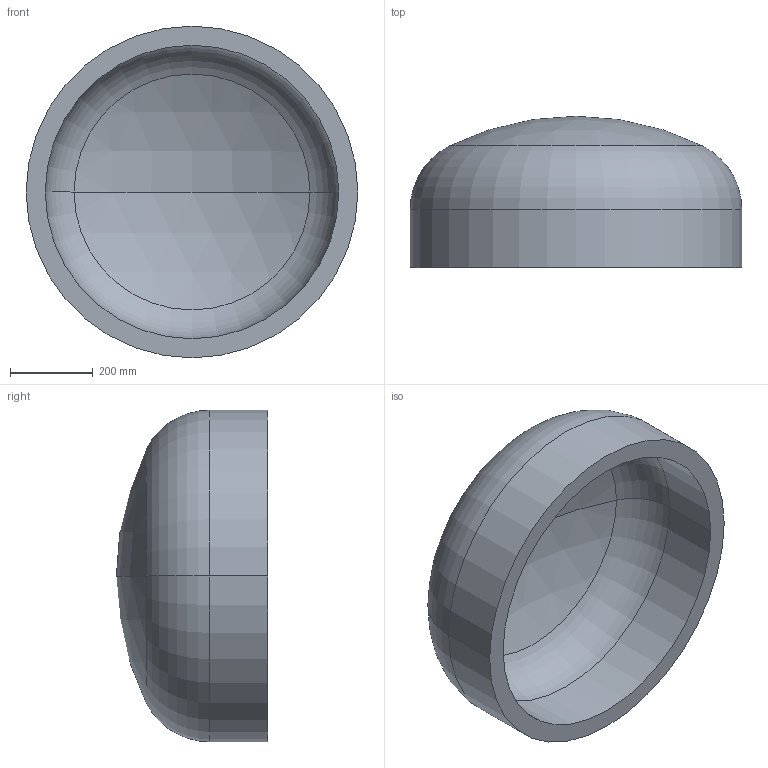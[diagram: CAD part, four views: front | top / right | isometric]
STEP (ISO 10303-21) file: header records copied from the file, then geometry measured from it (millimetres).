
FILE_DESCRIPTION (( 'STEP AP203' ), '1' );
FILE_NAME ('DIN 28013 Korbbogenform_-_Boden DIN 28013 - 800 x 140 - I - s=46.step', '2016-07-01T08:17:40', ( '' ), ( '' ), 'SwSTEP 2.0', 'SolidWorks 2013', '' );
FILE_SCHEMA (( 'CONFIG_CONTROL_DESIGN' ));
Length unit declared in the file: millimetre
Products named in the file (1): DIN 28013 Korbbogenform_-_Boden DIN 28013 - 800 x 140 - I - s=46
Bounding box: 800 x 364.71 x 800 mm (x, y, z)
Volume: 45100624.3 mm3; surface area: 2074291.1 mm2
Topology: 1 solids, 1 shells, 13 faces, 24 edges, 14 vertices
Faces by surface type: torus 4, cylinder 4, sphere 4, plane 1
Entity records: 407 total; most frequent: DIRECTION 72, CARTESIAN_POINT 52, ORIENTED_EDGE 48, AXIS2_PLACEMENT_3D 34, EDGE_CURVE 24, CIRCLE 20, VERTEX_POINT 14, EDGE_LOOP 14
